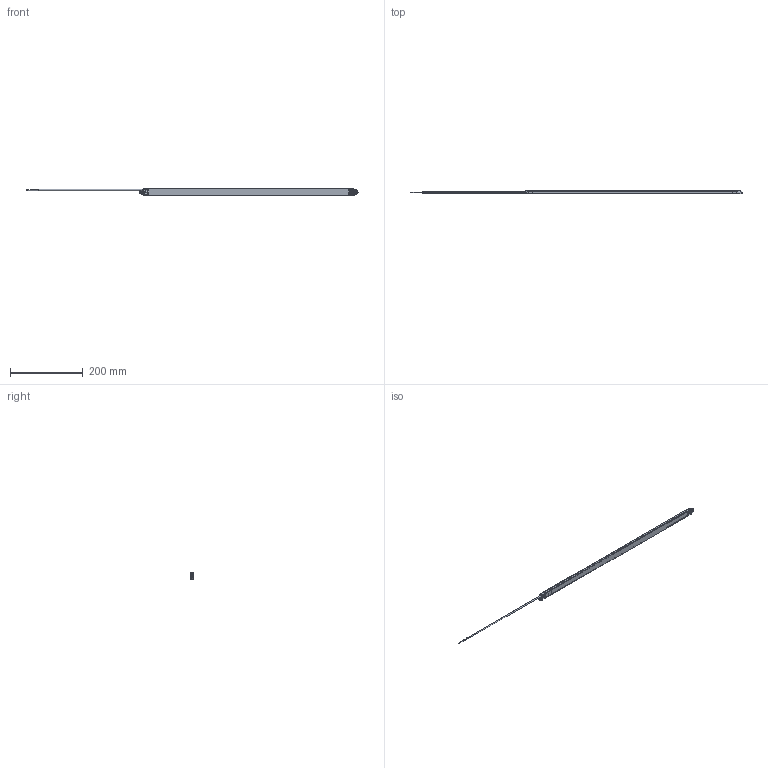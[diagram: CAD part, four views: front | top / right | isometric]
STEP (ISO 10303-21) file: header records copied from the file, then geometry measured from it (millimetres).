
FILE_DESCRIPTION (( 'STEP AP203' ), '1' );
FILE_NAME ('LAP600.STEP', '2021-12-20T08:13:05', ( '' ), ( '' ), 'SwSTEP 2.0', 'SolidWorks 2018', '' );
FILE_SCHEMA (( 'CONFIG_CONTROL_DESIGN' ));
Length unit declared in the file: millimetre
Products named in the file (8): 63202157_Default.; 63202280_2.9mmX13mm; LAP600; 63202230; 63202231; 63202150; 63202151; 63202152
Assembly tree (9 placements, depth 2):
  LAP600
    63202230
    63202231
    63202150
    63202151
    63202152  x2
    63202157_Default.
    63202280_2.9mmX13mm  x2
Bounding box: 911.41 x 8.4 x 17.84 mm (x, y, z)
Volume: 39207.5 mm3; surface area: 68628.9 mm2
Topology: 16 solids, 16 shells, 430 faces, 1085 edges, 704 vertices
Faces by surface type: cylinder 142, plane 130, bspline 114, torus 24, cone 16, sphere 4
Entity records: 24695 total; most frequent: CARTESIAN_POINT 15365, ORIENTED_EDGE 1832, DIRECTION 1660, EDGE_CURVE 916, AXIS2_PLACEMENT_3D 626, VERTEX_POINT 596, LINE 408, VECTOR 408
